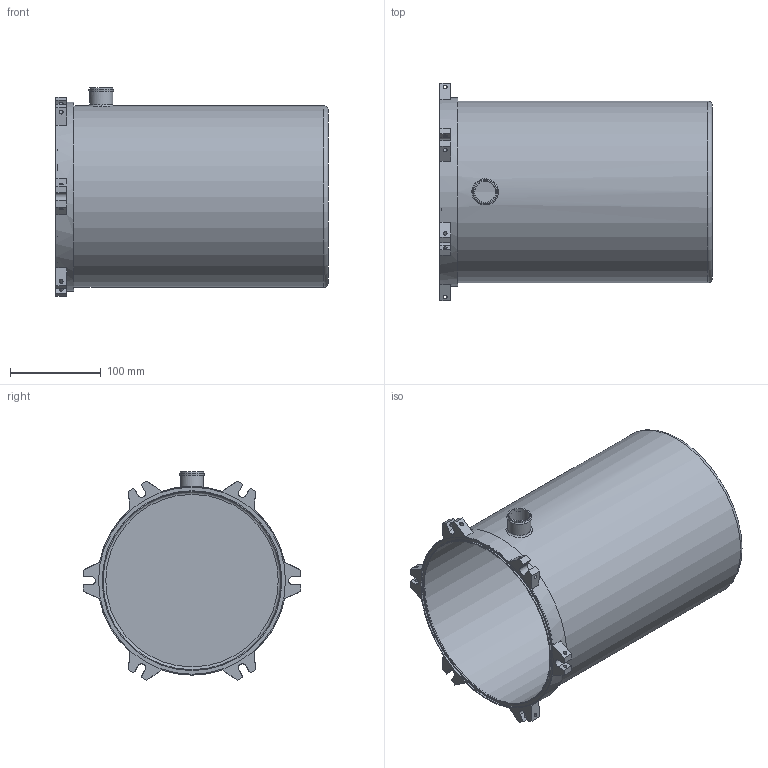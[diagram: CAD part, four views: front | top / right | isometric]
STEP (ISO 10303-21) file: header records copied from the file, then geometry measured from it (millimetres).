
FILE_DESCRIPTION(/* description */ (''),/* implementation_level */ '2;1');
FILE_NAME(/* name */ 'C:\Users\user\Documents\Inventor\Home Ventilator CPAP\Water container 02.stp',/* time_stamp */ '2020-03-29T22:41:57+02:00',/* author */ ('user'),/* organization */ (''),/* preprocessor_version */ 'ST-DEVELOPER v16.5',/* originating_system */ 'Autodesk Inventor 2017',/* authorisation */ '');
FILE_SCHEMA (('AUTOMOTIVE_DESIGN { 1 0 10303 214 3 1 1 }'));
Length unit declared in the file: millimetre
Products named in the file (1): Water container 02
Bounding box: 300 x 240 x 229.74 mm (x, y, z)
Volume: 506431.8 mm3; surface area: 452493 mm2
Topology: 1 solids, 1 shells, 79 faces, 231 edges, 157 vertices
Faces by surface type: plane 49, cylinder 26, torus 3, bspline 1
Full cylindrical faces by diameter (mm): 4 x12, 23 x1, 25.4 x2, 196 x1, 198 x1, 200 x1, 206 x1, 208 x1
Entity records: 2567 total; most frequent: CARTESIAN_POINT 554, DIRECTION 406, ORIENTED_EDGE 374, EDGE_CURVE 187, AXIS2_PLACEMENT_3D 143, VERTEX_POINT 138, EDGE_LOOP 133, LINE 120
